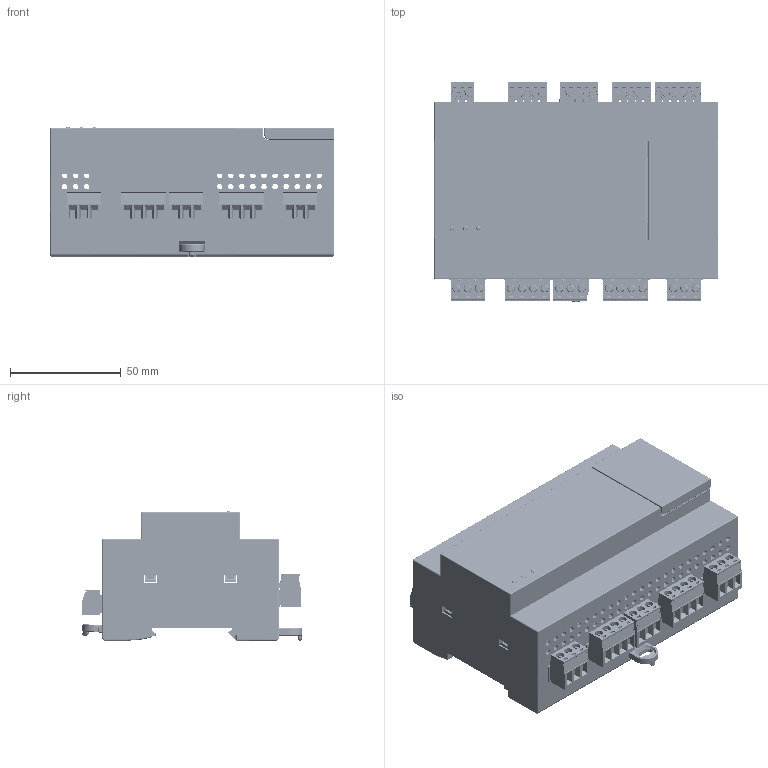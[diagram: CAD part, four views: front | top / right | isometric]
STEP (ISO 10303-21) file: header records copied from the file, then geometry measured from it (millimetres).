
FILE_DESCRIPTION (( 'STEP AP203' ), '1' );
FILE_NAME ('SMRE-SR1-24IO-蚾饜极-V1.0.STEP', '2024-09-20T03:04:56', ( '' ), ( '' ), 'SwSTEP 2.0', 'SolidWorks 2018', '' );
FILE_SCHEMA (( 'CONFIG_CONTROL_DESIGN' ));
Length unit declared in the file: millimetre
Products named in the file (22): JL2EDGRC-5.08-4P-T; 謗怓羲壽-1; SMRE-R1-24IO-PCB1-V1.0; HA03-01A+PA03-01A?3-5-3P; SMRE-SR1-FG-V1.0; TP-508-3P-蚾饜极; HA03-01A+PA03-01A?3-5-5P; 縐諶1; SMRE-SR1-24IO-PCB-V1.0; HA05-00C+PA05-00A-4P-C; SMRE-SR1-24IO-XG-V1.0; SMRE-SR1-24IO-SG-V1.0; SMRE-SR1-24IO-蚾饜极-V1.0; 28IO-JCJ; TP-508-4P-蚾饜极; SMRE-SR1-24IO-PCB2-V1.0; 縐諶2; HA05-00C+PA05-00A-3P-C; HA03-01A+PA03-01A?3-5-6P; JL2EDGRC-5.08-3P-T; USB-C.stp; DDC-7P____-G3P.stp
Assembly tree (26 placements, depth 4):
  SMRE-SR1-24IO-蚾饜极-V1.0
    SMRE-SR1-24IO-SG-V1.0
    DDC-7P____-G3P.stp
    USB-C.stp
    謗怓羲壽-1
    SMRE-SR1-24IO-XG-V1.0
    SMRE-SR1-24IO-PCB-V1.0
      SMRE-R1-24IO-PCB1-V1.0
      SMRE-SR1-24IO-PCB2-V1.0
      HA03-01A+PA03-01A?3-5-5P  x3
      28IO-JCJ
      TP-508-3P-蚾饜极  x3
        JL2EDGRC-5.08-3P-T
        HA05-00C+PA05-00A-3P-C
      TP-508-4P-蚾饜极  x2
        JL2EDGRC-5.08-4P-T
        HA05-00C+PA05-00A-4P-C
      HA03-01A+PA03-01A?3-5-3P
      HA03-01A+PA03-01A?3-5-6P
    SMRE-SR1-FG-V1.0
    縐諶1
    縐諶2
Bounding box: 128.03 x 99.45 x 58.3 mm (x, y, z)
Volume: 148402.2 mm3; surface area: 188334.7 mm2
Topology: 31 solids, 281 shells, 15186 faces, 42652 edges, 28171 vertices
Faces by surface type: plane 9592, cylinder 4043, bspline 845, cone 328, torus 318, sphere 60
Entity records: 367695 total; most frequent: CARTESIAN_POINT 138489, ORIENTED_EDGE 51948, DIRECTION 40323, EDGE_CURVE 25974, VERTEX_POINT 17181, VECTOR 14575, LINE 14575, AXIS2_PLACEMENT_3D 12874
